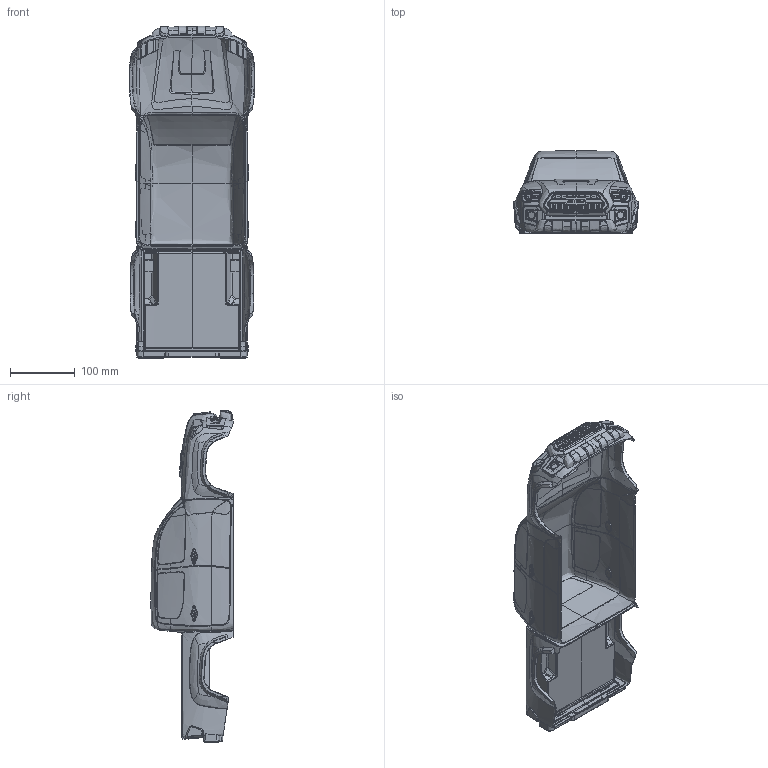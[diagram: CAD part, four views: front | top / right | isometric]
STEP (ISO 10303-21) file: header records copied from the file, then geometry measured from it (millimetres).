
FILE_DESCRIPTION(/* description */ (''),/* implementation_level */ '2;1');
FILE_NAME(/* name */ '/Users/alexmichaelbogusky/Desktop/TACO STEP.step',/* time_stamp */ '2019-11-29T12:47:12-07:00',/* author */ (''),/* organization */ (''),/* preprocessor_version */ 'ST-DEVELOPER v18',/* originating_system */ 'Autodesk Translation Framework v8.12.0.6',/* authorisation */ '');
FILE_SCHEMA (('AUTOMOTIVE_DESIGN { 1 0 10303 214 3 1 1 }'));
Products named in the file (1): TACO ONE PIECE
Bounding box: 192.24 x 126.58 x 510.99 mm (x, y, z)
Volume: 331221.8 mm3; surface area: 495458.3 mm2
Topology: 19 solids, 20 shells, 3587 faces, 9809 edges, 6228 vertices
Faces by surface type: bspline 1933, plane 897, cylinder 611, sphere 90, torus 44, cone 12
Full cylindrical faces by diameter (mm): 1.831 x2, 2.04 x8, 2.584 x8, 2.72 x2, 3.346 x2, 7.198 x2, 8.558 x2, 10.746 x2
Entity records: 294725 total; most frequent: CARTESIAN_POINT 219043, ORIENTED_EDGE 19522, EDGE_CURVE 9761, DIRECTION 9678, VERTEX_POINT 6228, B_SPLINE_CURVE_WITH_KNOTS 5194, EDGE_LOOP 3767, FACE_OUTER_BOUND 3587
